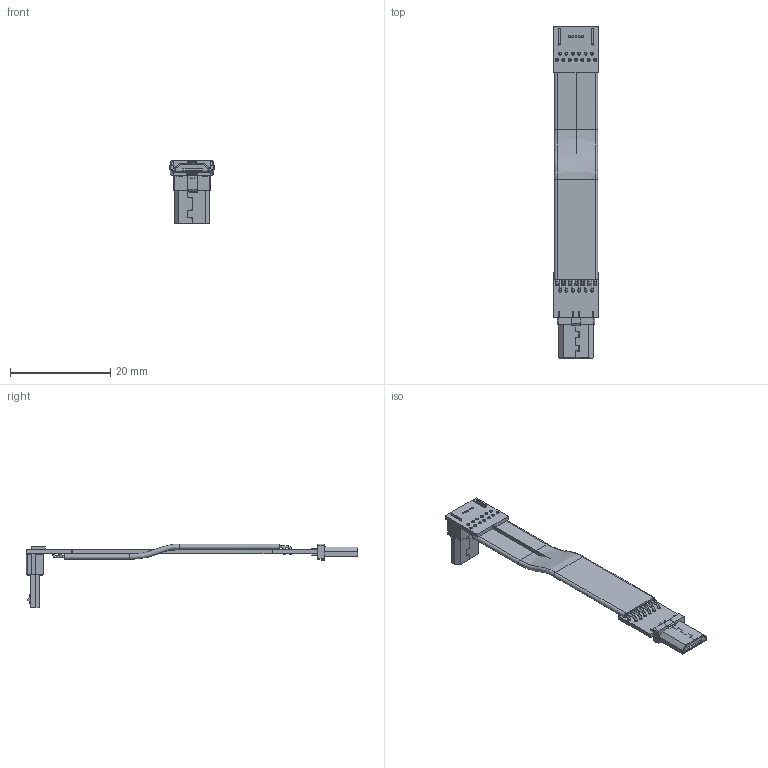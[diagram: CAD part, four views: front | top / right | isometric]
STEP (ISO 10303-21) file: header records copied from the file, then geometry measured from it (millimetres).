
FILE_DESCRIPTION(('Open CASCADE Model'),'2;1');
FILE_NAME('Open CASCADE Shape Model','2020-09-01T10:04:36',('Author'),( 'Open CASCADE'),'Open CASCADE STEP processor 6.8','Open CASCADE 6.8' ,'Unknown');
FILE_SCHEMA(('AUTOMOTIVE_DESIGN { 1 0 10303 214 1 1 1 1 }'));
Length unit declared in the file: millimetre
Products named in the file (35): PCB; Board; Open CASCADE STEP translator 6.8 19.1.1; Designator22; USB_micro; Designator22_1; micro_usb1; Free-Models; cable13-US1A
Assembly tree (34 placements, depth 3):
  PCB
    Board
      Open CASCADE STEP translator 6.8 19.1.1
    Designator22
      USB_micro
    Designator22_1
      micro_usb1
    Free-Models
      cable13-US1A
      cable13-US1A
      cable13-US1A
      cable13-US1A
      cable13-US1A
      cable13-US1A
      cable13-US1A
      cable13-US1A
      cable13-US1A
      cable13-US1A
      cable13-US1A
      cable13-US1A
      cable13-US1A
      cable13-US1A
      cable13-US1A
      cable13-US1A
      cable13-US1A
      cable13-US1A
      cable13-US1A
      cable13-US1A
      cable13-US1A
      cable13-US1A
      cable13-US1A
      cable13-US1A
      cable13-US1A
      cable13-US1A
      cable13-US1A
Bounding box: 8.83 x 66.32 x 12.7 mm (x, y, z)
Volume: 676.1 mm3; surface area: 2891.9 mm2
Topology: 30 solids, 30 shells, 616 faces, 1454 edges, 928 vertices
Faces by surface type: plane 389, cylinder 162, bspline 33, torus 26, extrusion 6
Full cylindrical faces by diameter (mm): 0.36 x5, 0.4 x59, 0.6 x26
Entity records: 24531 total; most frequent: CARTESIAN_POINT 4658, DIRECTION 2920, ORIENTED_EDGE 2908, EDGE_CURVE 1454, VECTOR 986, LINE 980, AXIS2_PLACEMENT_3D 967, VERTEX_POINT 928
